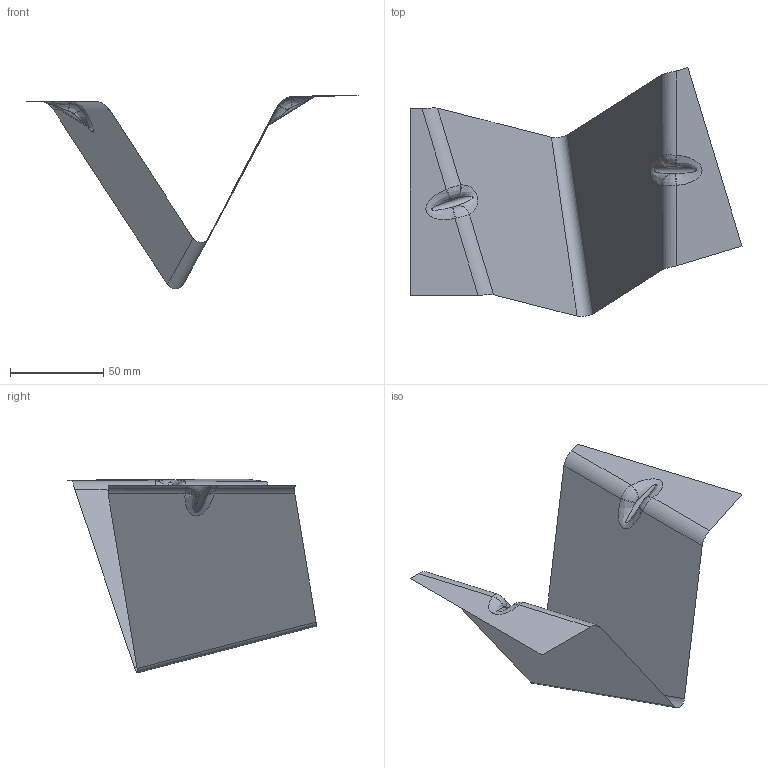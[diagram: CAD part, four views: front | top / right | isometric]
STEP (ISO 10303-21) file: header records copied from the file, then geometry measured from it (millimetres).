
FILE_DESCRIPTION(('CATIA V5 STEP Exchange'),'2;1');
FILE_NAME('C:\_Andres\UNIVERSIDAD\IQS\ASIGNATURAS\DAO\EXF\EXF-16172c\2inicio\Sarrió_Mercade_Ej03_v33.stp','2017-03-05T19:32:33+00:00',('none'),('none'),'CATIA Version 5-6 Release 2014 SP1 HF18','CATIA V5 STEP AP203','none');
FILE_SCHEMA(('CONFIG_CONTROL_DESIGN'));
Length unit declared in the file: millimetre
Products named in the file (1): Sarrió_Mercade_Ej03_v33
Bounding box: 177.85 x 133.27 x 103.75 mm (x, y, z)
Surface area: 27052.5 mm2 (no closed solid volume)
Topology: 0 solids, 1 shells, 31 faces, 78 edges, 48 vertices
Faces by surface type: bspline 16, plane 8, cylinder 7
Entity records: 2860 total; most frequent: CARTESIAN_POINT 2255, ORIENTED_EDGE 140, EDGE_CURVE 78, DIRECTION 52, B_SPLINE_CURVE_WITH_KNOTS 52, VERTEX_POINT 48, ADVANCED_FACE 31, EDGE_LOOP 31
